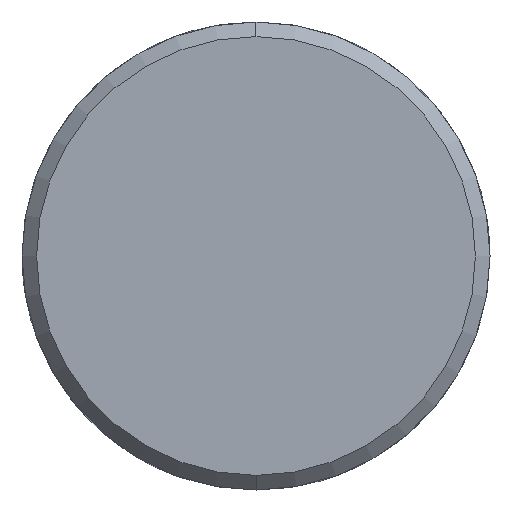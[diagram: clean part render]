
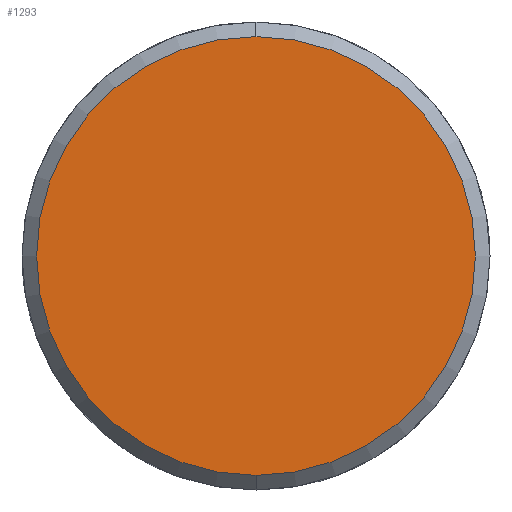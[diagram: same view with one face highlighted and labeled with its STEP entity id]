
A CAD part, left-side view. The second image highlights one B-rep face of the part: STEP entity #1293.
In plain terms, the highlighted planar face has unit normal (-1, 0, 0).
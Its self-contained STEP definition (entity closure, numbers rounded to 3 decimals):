
#1225=CARTESIAN_POINT('Vertex',(-6.,0.,-15.)) ;
#1228=CARTESIAN_POINT('Axis2P3D Location',(-6.,0.,0.)) ;
#1232=CARTESIAN_POINT('Vertex',(-6.,15.,0.)) ;
#1235=CARTESIAN_POINT('Axis2P3D Location',(-6.,0.,0.)) ;
#1239=CARTESIAN_POINT('Vertex',(-6.,0.,15.)) ;
#1261=CARTESIAN_POINT('Axis2P3D Location',(-6.,0.,0.)) ;
#1265=CARTESIAN_POINT('Vertex',(-6.,-15.,0.)) ;
#1268=CARTESIAN_POINT('Axis2P3D Location',(-6.,0.,0.)) ;
#1282=CARTESIAN_POINT('Axis2P3D Location',(-6.,0.,0.)) ;
#1229=DIRECTION('Axis2P3D Direction',(1.,0.,-0.)) ;
#1236=DIRECTION('Axis2P3D Direction',(1.,0.,-0.)) ;
#1262=DIRECTION('Axis2P3D Direction',(1.,0.,-0.)) ;
#1269=DIRECTION('Axis2P3D Direction',(1.,0.,-0.)) ;
#1283=DIRECTION('Axis2P3D Direction',(1.,0.,-0.)) ;
#1284=DIRECTION('Axis2P3D XDirection',(-0.,0.,-1.)) ;
#1230=AXIS2_PLACEMENT_3D('Circle Axis2P3D',#1228,#1229,$) ;
#1237=AXIS2_PLACEMENT_3D('Circle Axis2P3D',#1235,#1236,$) ;
#1263=AXIS2_PLACEMENT_3D('Circle Axis2P3D',#1261,#1262,$) ;
#1270=AXIS2_PLACEMENT_3D('Circle Axis2P3D',#1268,#1269,$) ;
#1285=AXIS2_PLACEMENT_3D('Plane Axis2P3D',#1282,#1283,#1284) ;
#1288=ORIENTED_EDGE('',*,*,#1234,.F.) ;
#1289=ORIENTED_EDGE('',*,*,#1272,.F.) ;
#1290=ORIENTED_EDGE('',*,*,#1267,.F.) ;
#1291=ORIENTED_EDGE('',*,*,#1241,.F.) ;
#1293=ADVANCED_FACE('351-20X46X120',(#1292),#1286,.F.) ;
#1231=CIRCLE('generated circle',#1230,15.) ;
#1238=CIRCLE('generated circle',#1237,15.) ;
#1264=CIRCLE('generated circle',#1263,15.) ;
#1271=CIRCLE('generated circle',#1270,15.) ;
#1234=EDGE_CURVE('',#1226,#1233,#1231,.T.) ;
#1241=EDGE_CURVE('',#1233,#1240,#1238,.T.) ;
#1267=EDGE_CURVE('',#1240,#1266,#1264,.T.) ;
#1272=EDGE_CURVE('',#1266,#1226,#1271,.T.) ;
#1287=EDGE_LOOP('',(#1288,#1289,#1290,#1291)) ;
#1292=FACE_OUTER_BOUND('',#1287,.T.) ;
#1286=PLANE('Plane',#1285) ;
#1226=VERTEX_POINT('',#1225) ;
#1233=VERTEX_POINT('',#1232) ;
#1240=VERTEX_POINT('',#1239) ;
#1266=VERTEX_POINT('',#1265) ;
